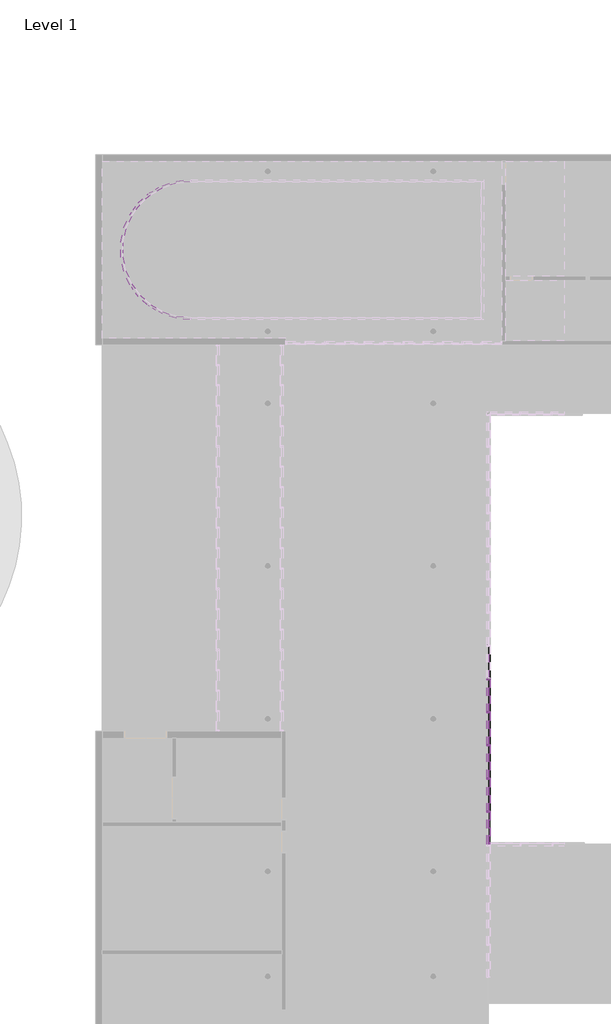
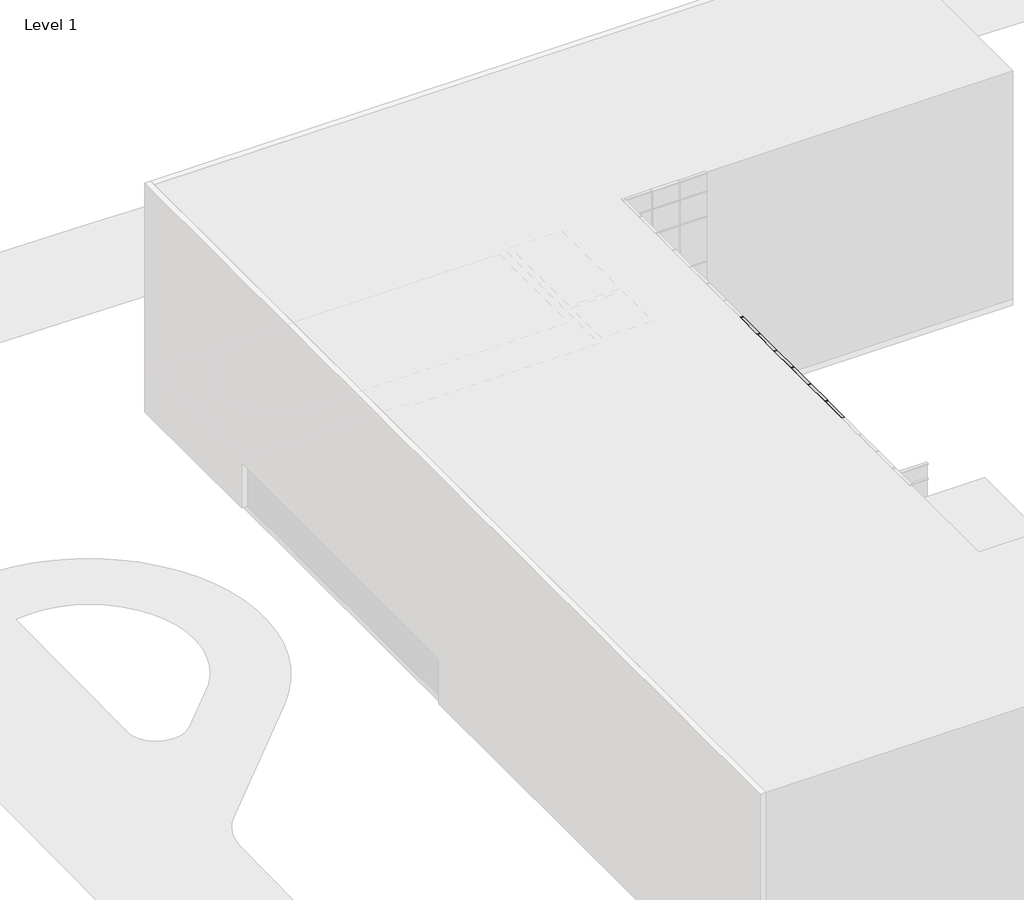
# One storey, part 12 of 18: 85 members, 41 plates, 1 wall.
"""IFC4 building model written with IfcOpenShell, lengths in millimetres."""

from ifc_helpers import new_model, si_unit, point, frame, frame_2d, origin, place, context, project, spatial, polyline, circle_curve, trimmed, segment, composite_curve, outline, extrude, transform, mapped, element, save
from components import rectangular_mullion_50mm_x_150mm_70cae3e1, rectangular_mullion_50mm_x_150mm_5226f6e8, rectangular_mullion_50mm_x_150mm_cdcddcff, rectangular_mullion_50mm_x_150mm_bbc1c4ea, rectangular_mullion_50mm_x_150mm_36202a7c, rectangular_mullion_50mm_x_150mm_84717ec5, system_panel_glazed_979b1f5c, system_panel_glazed_2f061a2c, system_panel_glazed_e0fa8d18, system_panel_glazed_d7f2fe37, system_panel_solid_7338a288, system_panel_solid_0b170172, system_panel_solid_080c1e2c, system_panel_solid_c63c66e8

model = new_model("IFC4")

# Units and contexts
model_context = context("Model", 3, world=origin())
ifc_project = project(units=[si_unit("LENGTHUNIT", "METRE", prefix="MILLI")], contexts=[model_context])

# Site, building, storey
site = spatial("IfcSite", under=ifc_project)
building = spatial("IfcBuilding", under=site)
storey = spatial("IfcBuildingStorey", under=building, Name="Level 1", Elevation=0.0)

# Members
placement = place(None, origin())
rectangular_mullion_50mm_x_150mm_shape = rectangular_mullion_50mm_x_150mm_70cae3e1(model_context)
element("IfcMember", 1, ObjectType="Rectangular Mullion : 50mm x 150mm", at=placement, inside=storey, context=model_context, shape_type="MappedRepresentation", body=[
    mapped(rectangular_mullion_50mm_x_150mm_shape, transform((7447.5010724, 1362.8673344, 12400.0), x_axis=(0.0, 0.0, 1.0), y_axis=(1.0, 0.0, 0.0), z_axis=(0.0, 1.0, 0.0))),
])
element("IfcMember", 2, ObjectType="Rectangular Mullion : 50mm x 150mm", at=placement, inside=storey, context=model_context, shape_type="MappedRepresentation", body=[
    mapped(rectangular_mullion_50mm_x_150mm_shape, transform((7447.5010724, 2865.1149904, 12400.0), x_axis=(0.0, 0.0, 1.0), y_axis=(1.0, 0.0, 0.0), z_axis=(0.0, 1.0, 0.0))),
])
element("IfcMember", 3, ObjectType="Rectangular Mullion : 50mm x 150mm", at=placement, inside=storey, context=model_context, shape_type="MappedRepresentation", body=[
    mapped(rectangular_mullion_50mm_x_150mm_shape, transform((7447.5010724, 4367.3626463, 12400.0), x_axis=(0.0, 0.0, 1.0), y_axis=(1.0, 0.0, 0.0), z_axis=(0.0, 1.0, 0.0))),
])
element("IfcMember", 4, ObjectType="Rectangular Mullion : 50mm x 150mm", at=placement, inside=storey, context=model_context, shape_type="MappedRepresentation", body=[
    mapped(rectangular_mullion_50mm_x_150mm_shape, transform((7447.5010724, 5869.6103022, 12400.0), x_axis=(0.0, 0.0, 1.0), y_axis=(1.0, 0.0, 0.0), z_axis=(0.0, 1.0, 0.0))),
])
element("IfcMember", 5, ObjectType="Rectangular Mullion : 50mm x 150mm", at=placement, inside=storey, context=model_context, shape_type="MappedRepresentation", body=[
    mapped(rectangular_mullion_50mm_x_150mm_shape, transform((7447.5010724, 7371.8579582, 12400.0), x_axis=(0.0, 0.0, 1.0), y_axis=(1.0, 0.0, 0.0), z_axis=(0.0, 1.0, 0.0))),
])
element("IfcMember", 6, ObjectType="Rectangular Mullion : 50mm x 150mm", at=placement, inside=storey, context=model_context, shape_type="MappedRepresentation", body=[
    mapped(rectangular_mullion_50mm_x_150mm_shape, transform((7447.5010724, 8874.1056141, 12400.0), x_axis=(0.0, 0.0, 1.0), y_axis=(1.0, 0.0, 0.0), z_axis=(0.0, 1.0, 0.0))),
])
element("IfcMember", 7, ObjectType="Rectangular Mullion : 50mm x 150mm", at=placement, inside=storey, context=model_context, shape_type="MappedRepresentation", body=[
    mapped(rectangular_mullion_50mm_x_150mm_shape, transform((7447.5010724, 1412.8673344, 0.0), x_axis=(0.0, 0.0, -1.0), y_axis=(1.0, 0.0, 0.0), z_axis=(0.0, -1.0, 0.0))),
])
element("IfcMember", 8, ObjectType="Rectangular Mullion : 50mm x 150mm", at=placement, inside=storey, context=model_context, shape_type="MappedRepresentation", body=[
    mapped(rectangular_mullion_50mm_x_150mm_shape, transform((7447.5010724, 2915.1149904, 0.0), x_axis=(0.0, 0.0, -1.0), y_axis=(1.0, 0.0, 0.0), z_axis=(0.0, -1.0, 0.0))),
])
element("IfcMember", 9, ObjectType="Rectangular Mullion : 50mm x 150mm", at=placement, inside=storey, context=model_context, shape_type="MappedRepresentation", body=[
    mapped(rectangular_mullion_50mm_x_150mm_shape, transform((7447.5010724, 4417.3626463, 0.0), x_axis=(0.0, 0.0, -1.0), y_axis=(1.0, 0.0, 0.0), z_axis=(0.0, -1.0, 0.0))),
])
element("IfcMember", 10, ObjectType="Rectangular Mullion : 50mm x 150mm", at=placement, inside=storey, context=model_context, shape_type="MappedRepresentation", body=[
    mapped(rectangular_mullion_50mm_x_150mm_shape, transform((7447.5010724, 5919.6103022, 0.0), x_axis=(0.0, 0.0, -1.0), y_axis=(1.0, 0.0, 0.0), z_axis=(0.0, -1.0, 0.0))),
])
element("IfcMember", 11, ObjectType="Rectangular Mullion : 50mm x 150mm", at=placement, inside=storey, context=model_context, shape_type="MappedRepresentation", body=[
    mapped(rectangular_mullion_50mm_x_150mm_shape, transform((7447.5010724, 7421.8579582, 0.0), x_axis=(0.0, 0.0, -1.0), y_axis=(1.0, 0.0, 0.0), z_axis=(0.0, -1.0, 0.0))),
])
rectangular_mullion_50mm_x_150mm_2_shape = rectangular_mullion_50mm_x_150mm_5226f6e8(model_context)
element("IfcMember", 12, ObjectType="Rectangular Mullion : 50mm x 150mm", at=placement, inside=storey, context=model_context, shape_type="MappedRepresentation", body=[
    mapped(rectangular_mullion_50mm_x_150mm_2_shape, transform((7447.5010724, 2865.1149904, 3800.0), x_axis=(0.0, 0.0, 1.0), y_axis=(1.0, 0.0, 0.0), z_axis=(0.0, 1.0, 0.0))),
])
element("IfcMember", 13, ObjectType="Rectangular Mullion : 50mm x 150mm", at=placement, inside=storey, context=model_context, shape_type="MappedRepresentation", body=[
    mapped(rectangular_mullion_50mm_x_150mm_2_shape, transform((7447.5010724, 4367.3626463, 3800.0), x_axis=(0.0, 0.0, 1.0), y_axis=(1.0, 0.0, 0.0), z_axis=(0.0, 1.0, 0.0))),
])
element("IfcMember", 14, ObjectType="Rectangular Mullion : 50mm x 150mm", at=placement, inside=storey, context=model_context, shape_type="MappedRepresentation", body=[
    mapped(rectangular_mullion_50mm_x_150mm_2_shape, transform((7447.5010724, 5869.6103022, 3800.0), x_axis=(0.0, 0.0, 1.0), y_axis=(1.0, 0.0, 0.0), z_axis=(0.0, 1.0, 0.0))),
])
element("IfcMember", 15, ObjectType="Rectangular Mullion : 50mm x 150mm", at=placement, inside=storey, context=model_context, shape_type="MappedRepresentation", body=[
    mapped(rectangular_mullion_50mm_x_150mm_2_shape, transform((7447.5010724, 7371.8579582, 3800.0), x_axis=(0.0, 0.0, 1.0), y_axis=(1.0, 0.0, 0.0), z_axis=(0.0, 1.0, 0.0))),
])
element("IfcMember", 16, ObjectType="Rectangular Mullion : 50mm x 150mm", at=placement, inside=storey, context=model_context, shape_type="MappedRepresentation", body=[
    mapped(rectangular_mullion_50mm_x_150mm_2_shape, transform((7447.5010724, 8874.1056141, 3800.0), x_axis=(0.0, 0.0, 1.0), y_axis=(1.0, 0.0, 0.0), z_axis=(0.0, 1.0, 0.0))),
])
element("IfcMember", 17, ObjectType="Rectangular Mullion : 50mm x 150mm", at=placement, inside=storey, context=model_context, shape_type="MappedRepresentation", body=[
    mapped(rectangular_mullion_50mm_x_150mm_2_shape, transform((7447.5010724, 1362.8673344, 7600.0), x_axis=(0.0, 0.0, 1.0), y_axis=(1.0, 0.0, 0.0), z_axis=(0.0, 1.0, 0.0))),
])
element("IfcMember", 18, ObjectType="Rectangular Mullion : 50mm x 150mm", at=placement, inside=storey, context=model_context, shape_type="MappedRepresentation", body=[
    mapped(rectangular_mullion_50mm_x_150mm_2_shape, transform((7447.5010724, 2865.1149904, 7600.0), x_axis=(0.0, 0.0, 1.0), y_axis=(1.0, 0.0, 0.0), z_axis=(0.0, 1.0, 0.0))),
])
element("IfcMember", 19, ObjectType="Rectangular Mullion : 50mm x 150mm", at=placement, inside=storey, context=model_context, shape_type="MappedRepresentation", body=[
    mapped(rectangular_mullion_50mm_x_150mm_2_shape, transform((7447.5010724, 4367.3626463, 7600.0), x_axis=(0.0, 0.0, 1.0), y_axis=(1.0, 0.0, 0.0), z_axis=(0.0, 1.0, 0.0))),
])
element("IfcMember", 20, ObjectType="Rectangular Mullion : 50mm x 150mm", at=placement, inside=storey, context=model_context, shape_type="MappedRepresentation", body=[
    mapped(rectangular_mullion_50mm_x_150mm_2_shape, transform((7447.5010724, 5869.6103022, 7600.0), x_axis=(0.0, 0.0, 1.0), y_axis=(1.0, 0.0, 0.0), z_axis=(0.0, 1.0, 0.0))),
])
element("IfcMember", 21, ObjectType="Rectangular Mullion : 50mm x 150mm", at=placement, inside=storey, context=model_context, shape_type="MappedRepresentation", body=[
    mapped(rectangular_mullion_50mm_x_150mm_2_shape, transform((7447.5010724, 7371.8579582, 7600.0), x_axis=(0.0, 0.0, 1.0), y_axis=(1.0, 0.0, 0.0), z_axis=(0.0, 1.0, 0.0))),
])
element("IfcMember", 22, ObjectType="Rectangular Mullion : 50mm x 150mm", at=placement, inside=storey, context=model_context, shape_type="MappedRepresentation", body=[
    mapped(rectangular_mullion_50mm_x_150mm_2_shape, transform((7447.5010724, 8874.1056141, 7600.0), x_axis=(0.0, 0.0, 1.0), y_axis=(1.0, 0.0, 0.0), z_axis=(0.0, 1.0, 0.0))),
])
element("IfcMember", 23, ObjectType="Rectangular Mullion : 50mm x 150mm", at=placement, inside=storey, context=model_context, shape_type="MappedRepresentation", body=[
    mapped(rectangular_mullion_50mm_x_150mm_2_shape, transform((7447.5010724, 1362.8673344, 11400.0), x_axis=(0.0, 0.0, 1.0), y_axis=(1.0, 0.0, 0.0), z_axis=(0.0, 1.0, 0.0))),
])
element("IfcMember", 24, ObjectType="Rectangular Mullion : 50mm x 150mm", at=placement, inside=storey, context=model_context, shape_type="MappedRepresentation", body=[
    mapped(rectangular_mullion_50mm_x_150mm_2_shape, transform((7447.5010724, 2865.1149904, 11400.0), x_axis=(0.0, 0.0, 1.0), y_axis=(1.0, 0.0, 0.0), z_axis=(0.0, 1.0, 0.0))),
])
element("IfcMember", 25, ObjectType="Rectangular Mullion : 50mm x 150mm", at=placement, inside=storey, context=model_context, shape_type="MappedRepresentation", body=[
    mapped(rectangular_mullion_50mm_x_150mm_2_shape, transform((7447.5010724, 4367.3626463, 11400.0), x_axis=(0.0, 0.0, 1.0), y_axis=(1.0, 0.0, 0.0), z_axis=(0.0, 1.0, 0.0))),
])
element("IfcMember", 26, ObjectType="Rectangular Mullion : 50mm x 150mm", at=placement, inside=storey, context=model_context, shape_type="MappedRepresentation", body=[
    mapped(rectangular_mullion_50mm_x_150mm_2_shape, transform((7447.5010724, 5869.6103022, 11400.0), x_axis=(0.0, 0.0, 1.0), y_axis=(1.0, 0.0, 0.0), z_axis=(0.0, 1.0, 0.0))),
])
element("IfcMember", 27, ObjectType="Rectangular Mullion : 50mm x 150mm", at=placement, inside=storey, context=model_context, shape_type="MappedRepresentation", body=[
    mapped(rectangular_mullion_50mm_x_150mm_2_shape, transform((7447.5010724, 7371.8579582, 11400.0), x_axis=(0.0, 0.0, 1.0), y_axis=(1.0, 0.0, 0.0), z_axis=(0.0, 1.0, 0.0))),
])
element("IfcMember", 28, ObjectType="Rectangular Mullion : 50mm x 150mm", at=placement, inside=storey, context=model_context, shape_type="MappedRepresentation", body=[
    mapped(rectangular_mullion_50mm_x_150mm_2_shape, transform((7447.5010724, 8874.1056141, 11400.0), x_axis=(0.0, 0.0, 1.0), y_axis=(1.0, 0.0, 0.0), z_axis=(0.0, 1.0, 0.0))),
])
element("IfcMember", 29, ObjectType="Rectangular Mullion : 50mm x 150mm", at=placement, inside=storey, context=model_context, shape_type="MappedRepresentation", body=[
    mapped(rectangular_mullion_50mm_x_150mm_2_shape, transform((7447.5010724, 1362.8673344, 10040.0), x_axis=(0.0, 0.0, 1.0), y_axis=(1.0, 0.0, 0.0), z_axis=(0.0, 1.0, 0.0))),
])
element("IfcMember", 30, ObjectType="Rectangular Mullion : 50mm x 150mm", at=placement, inside=storey, context=model_context, shape_type="MappedRepresentation", body=[
    mapped(rectangular_mullion_50mm_x_150mm_2_shape, transform((7447.5010724, 2865.1149904, 10040.0), x_axis=(0.0, 0.0, 1.0), y_axis=(1.0, 0.0, 0.0), z_axis=(0.0, 1.0, 0.0))),
])
element("IfcMember", 31, ObjectType="Rectangular Mullion : 50mm x 150mm", at=placement, inside=storey, context=model_context, shape_type="MappedRepresentation", body=[
    mapped(rectangular_mullion_50mm_x_150mm_2_shape, transform((7447.5010724, 4367.3626463, 10040.0), x_axis=(0.0, 0.0, 1.0), y_axis=(1.0, 0.0, 0.0), z_axis=(0.0, 1.0, 0.0))),
])
element("IfcMember", 32, ObjectType="Rectangular Mullion : 50mm x 150mm", at=placement, inside=storey, context=model_context, shape_type="MappedRepresentation", body=[
    mapped(rectangular_mullion_50mm_x_150mm_2_shape, transform((7447.5010724, 5869.6103022, 10040.0), x_axis=(0.0, 0.0, 1.0), y_axis=(1.0, 0.0, 0.0), z_axis=(0.0, 1.0, 0.0))),
])
element("IfcMember", 33, ObjectType="Rectangular Mullion : 50mm x 150mm", at=placement, inside=storey, context=model_context, shape_type="MappedRepresentation", body=[
    mapped(rectangular_mullion_50mm_x_150mm_2_shape, transform((7447.5010724, 7371.8579582, 10040.0), x_axis=(0.0, 0.0, 1.0), y_axis=(1.0, 0.0, 0.0), z_axis=(0.0, 1.0, 0.0))),
])
element("IfcMember", 34, ObjectType="Rectangular Mullion : 50mm x 150mm", at=placement, inside=storey, context=model_context, shape_type="MappedRepresentation", body=[
    mapped(rectangular_mullion_50mm_x_150mm_2_shape, transform((7447.5010724, 8874.1056141, 10040.0), x_axis=(0.0, 0.0, 1.0), y_axis=(1.0, 0.0, 0.0), z_axis=(0.0, 1.0, 0.0))),
])
element("IfcMember", 35, ObjectType="Rectangular Mullion : 50mm x 150mm", at=placement, inside=storey, context=model_context, shape_type="MappedRepresentation", body=[
    mapped(rectangular_mullion_50mm_x_150mm_2_shape, transform((7447.5010724, 2865.1149904, 6240.0), x_axis=(0.0, 0.0, 1.0), y_axis=(1.0, 0.0, 0.0), z_axis=(0.0, 1.0, 0.0))),
])
element("IfcMember", 36, ObjectType="Rectangular Mullion : 50mm x 150mm", at=placement, inside=storey, context=model_context, shape_type="MappedRepresentation", body=[
    mapped(rectangular_mullion_50mm_x_150mm_2_shape, transform((7447.5010724, 4367.3626463, 6240.0), x_axis=(0.0, 0.0, 1.0), y_axis=(1.0, 0.0, 0.0), z_axis=(0.0, 1.0, 0.0))),
])
element("IfcMember", 37, ObjectType="Rectangular Mullion : 50mm x 150mm", at=placement, inside=storey, context=model_context, shape_type="MappedRepresentation", body=[
    mapped(rectangular_mullion_50mm_x_150mm_2_shape, transform((7447.5010724, 5869.6103022, 6240.0), x_axis=(0.0, 0.0, 1.0), y_axis=(1.0, 0.0, 0.0), z_axis=(0.0, 1.0, 0.0))),
])
element("IfcMember", 38, ObjectType="Rectangular Mullion : 50mm x 150mm", at=placement, inside=storey, context=model_context, shape_type="MappedRepresentation", body=[
    mapped(rectangular_mullion_50mm_x_150mm_2_shape, transform((7447.5010724, 7371.8579582, 6240.0), x_axis=(0.0, 0.0, 1.0), y_axis=(1.0, 0.0, 0.0), z_axis=(0.0, 1.0, 0.0))),
])
element("IfcMember", 39, ObjectType="Rectangular Mullion : 50mm x 150mm", at=placement, inside=storey, context=model_context, shape_type="MappedRepresentation", body=[
    mapped(rectangular_mullion_50mm_x_150mm_2_shape, transform((7447.5010724, 2865.1149904, 2440.0), x_axis=(0.0, 0.0, 1.0), y_axis=(1.0, 0.0, 0.0), z_axis=(0.0, 1.0, 0.0))),
])
element("IfcMember", 40, ObjectType="Rectangular Mullion : 50mm x 150mm", at=placement, inside=storey, context=model_context, shape_type="MappedRepresentation", body=[
    mapped(rectangular_mullion_50mm_x_150mm_2_shape, transform((7447.5010724, 4367.3626463, 2440.0), x_axis=(0.0, 0.0, 1.0), y_axis=(1.0, 0.0, 0.0), z_axis=(0.0, 1.0, 0.0))),
])
element("IfcMember", 41, ObjectType="Rectangular Mullion : 50mm x 150mm", at=placement, inside=storey, context=model_context, shape_type="MappedRepresentation", body=[
    mapped(rectangular_mullion_50mm_x_150mm_2_shape, transform((7447.5010724, 5869.6103022, 2440.0), x_axis=(0.0, 0.0, 1.0), y_axis=(1.0, 0.0, 0.0), z_axis=(0.0, 1.0, 0.0))),
])
element("IfcMember", 42, ObjectType="Rectangular Mullion : 50mm x 150mm", at=placement, inside=storey, context=model_context, shape_type="MappedRepresentation", body=[
    mapped(rectangular_mullion_50mm_x_150mm_2_shape, transform((7447.5010724, 7371.8579582, 2440.0), x_axis=(0.0, 0.0, 1.0), y_axis=(1.0, 0.0, 0.0), z_axis=(0.0, 1.0, 0.0))),
])
rectangular_mullion_50mm_x_150mm_3_shape = rectangular_mullion_50mm_x_150mm_cdcddcff(model_context)
element("IfcMember", 43, ObjectType="Rectangular Mullion : 50mm x 150mm", at=placement, inside=storey, context=model_context, shape_type="MappedRepresentation", body=[
    mapped(rectangular_mullion_50mm_x_150mm_3_shape, transform((7447.5010724, 1362.8673344, 3800.0), x_axis=(0.0, 0.0, 1.0), y_axis=(1.0, 0.0, 0.0), z_axis=(0.0, 1.0, 0.0))),
])
element("IfcMember", 44, ObjectType="Rectangular Mullion : 50mm x 150mm", at=placement, inside=storey, context=model_context, shape_type="MappedRepresentation", body=[
    mapped(rectangular_mullion_50mm_x_150mm_3_shape, transform((7447.5010724, 1362.8673344, 6240.0), x_axis=(0.0, 0.0, 1.0), y_axis=(1.0, 0.0, 0.0), z_axis=(0.0, 1.0, 0.0))),
])
element("IfcMember", 45, ObjectType="Rectangular Mullion : 50mm x 150mm", at=placement, inside=storey, context=model_context, shape_type="MappedRepresentation", body=[
    mapped(rectangular_mullion_50mm_x_150mm_3_shape, transform((7447.5010724, 1362.8673344, 2440.0), x_axis=(0.0, 0.0, 1.0), y_axis=(1.0, 0.0, 0.0), z_axis=(0.0, 1.0, 0.0))),
])
rectangular_mullion_50mm_x_150mm_4_shape = rectangular_mullion_50mm_x_150mm_bbc1c4ea(model_context)
element("IfcMember", 46, ObjectType="Rectangular Mullion : 50mm x 150mm", at=placement, inside=storey, context=model_context, shape_type="MappedRepresentation", body=[
    mapped(rectangular_mullion_50mm_x_150mm_4_shape, transform((7447.5010724, 1387.8673344, 11400.0), x_axis=(0.0, 1.0, 0.0), y_axis=(1.0, 0.0, 0.0), z_axis=(0.0, 0.0, -1.0))),
])
element("IfcMember", 47, ObjectType="Rectangular Mullion : 50mm x 150mm", at=placement, inside=storey, context=model_context, shape_type="MappedRepresentation", body=[
    mapped(rectangular_mullion_50mm_x_150mm_4_shape, transform((7447.5010724, 2890.1149904, 11400.0), x_axis=(0.0, 1.0, 0.0), y_axis=(1.0, 0.0, 0.0), z_axis=(0.0, 0.0, -1.0))),
])
element("IfcMember", 48, ObjectType="Rectangular Mullion : 50mm x 150mm", at=placement, inside=storey, context=model_context, shape_type="MappedRepresentation", body=[
    mapped(rectangular_mullion_50mm_x_150mm_4_shape, transform((7447.5010724, 4392.3626463, 11400.0), x_axis=(0.0, 1.0, 0.0), y_axis=(1.0, 0.0, 0.0), z_axis=(0.0, 0.0, -1.0))),
])
element("IfcMember", 49, ObjectType="Rectangular Mullion : 50mm x 150mm", at=placement, inside=storey, context=model_context, shape_type="MappedRepresentation", body=[
    mapped(rectangular_mullion_50mm_x_150mm_4_shape, transform((7447.5010724, 5894.6103022, 11400.0), x_axis=(0.0, 1.0, 0.0), y_axis=(1.0, 0.0, 0.0), z_axis=(0.0, 0.0, -1.0))),
])
element("IfcMember", 50, ObjectType="Rectangular Mullion : 50mm x 150mm", at=placement, inside=storey, context=model_context, shape_type="MappedRepresentation", body=[
    mapped(rectangular_mullion_50mm_x_150mm_4_shape, transform((7447.5010724, 7396.8579582, 11400.0), x_axis=(0.0, 1.0, 0.0), y_axis=(1.0, 0.0, 0.0), z_axis=(0.0, 0.0, -1.0))),
])
element("IfcMember", 51, ObjectType="Rectangular Mullion : 50mm x 150mm", at=placement, inside=storey, context=model_context, shape_type="MappedRepresentation", body=[
    mapped(rectangular_mullion_50mm_x_150mm_4_shape, transform((7447.5010724, 8899.1056141, 11400.0), x_axis=(0.0, 1.0, 0.0), y_axis=(1.0, 0.0, 0.0), z_axis=(0.0, 0.0, -1.0))),
])
rectangular_mullion_50mm_x_150mm_5_shape = rectangular_mullion_50mm_x_150mm_36202a7c(model_context)
element("IfcMember", 52, ObjectType="Rectangular Mullion : 50mm x 150mm", at=placement, inside=storey, context=model_context, shape_type="MappedRepresentation", body=[
    mapped(rectangular_mullion_50mm_x_150mm_5_shape, transform((7447.5010724, 1387.8673344, 0.0), x_axis=(0.0, 1.0, 0.0), y_axis=(1.0, 0.0, 0.0), z_axis=(0.0, 0.0, -1.0))),
])
element("IfcMember", 53, ObjectType="Rectangular Mullion : 50mm x 150mm", at=placement, inside=storey, context=model_context, shape_type="MappedRepresentation", body=[
    mapped(rectangular_mullion_50mm_x_150mm_5_shape, transform((7447.5010724, 2890.1149904, 0.0), x_axis=(0.0, 1.0, 0.0), y_axis=(1.0, 0.0, 0.0), z_axis=(0.0, 0.0, -1.0))),
])
element("IfcMember", 54, ObjectType="Rectangular Mullion : 50mm x 150mm", at=placement, inside=storey, context=model_context, shape_type="MappedRepresentation", body=[
    mapped(rectangular_mullion_50mm_x_150mm_5_shape, transform((7447.5010724, 4392.3626463, 0.0), x_axis=(0.0, 1.0, 0.0), y_axis=(1.0, 0.0, 0.0), z_axis=(0.0, 0.0, -1.0))),
])
element("IfcMember", 55, ObjectType="Rectangular Mullion : 50mm x 150mm", at=placement, inside=storey, context=model_context, shape_type="MappedRepresentation", body=[
    mapped(rectangular_mullion_50mm_x_150mm_5_shape, transform((7447.5010724, 5894.6103022, 0.0), x_axis=(0.0, 1.0, 0.0), y_axis=(1.0, 0.0, 0.0), z_axis=(0.0, 0.0, -1.0))),
])
element("IfcMember", 56, ObjectType="Rectangular Mullion : 50mm x 150mm", at=placement, inside=storey, context=model_context, shape_type="MappedRepresentation", body=[
    mapped(rectangular_mullion_50mm_x_150mm_5_shape, transform((7447.5010724, 7396.8579582, 0.0), x_axis=(0.0, 1.0, 0.0), y_axis=(1.0, 0.0, 0.0), z_axis=(0.0, 0.0, -1.0))),
])
element("IfcMember", 57, ObjectType="Rectangular Mullion : 50mm x 150mm", at=placement, inside=storey, context=model_context, shape_type="MappedRepresentation", body=[
    mapped(rectangular_mullion_50mm_x_150mm_5_shape, transform((7447.5010724, 8899.1056141, 0.0), x_axis=(0.0, 1.0, 0.0), y_axis=(1.0, 0.0, 0.0), z_axis=(0.0, 0.0, -1.0))),
])
rectangular_mullion_50mm_x_150mm_6_shape = rectangular_mullion_50mm_x_150mm_84717ec5(model_context)
element("IfcMember", 58, ObjectType="Rectangular Mullion : 50mm x 150mm", at=placement, inside=storey, context=model_context, shape_type="MappedRepresentation", body=[
    mapped(rectangular_mullion_50mm_x_150mm_6_shape, transform((7447.5010724, 1387.8673344, 10040.0), x_axis=(0.0, 1.0, 0.0), y_axis=(1.0, 0.0, 0.0), z_axis=(0.0, 0.0, -1.0))),
])
element("IfcMember", 59, ObjectType="Rectangular Mullion : 50mm x 150mm", at=placement, inside=storey, context=model_context, shape_type="MappedRepresentation", body=[
    mapped(rectangular_mullion_50mm_x_150mm_6_shape, transform((7447.5010724, 2890.1149904, 10040.0), x_axis=(0.0, 1.0, 0.0), y_axis=(1.0, 0.0, 0.0), z_axis=(0.0, 0.0, -1.0))),
])
element("IfcMember", 60, ObjectType="Rectangular Mullion : 50mm x 150mm", at=placement, inside=storey, context=model_context, shape_type="MappedRepresentation", body=[
    mapped(rectangular_mullion_50mm_x_150mm_6_shape, transform((7447.5010724, 4392.3626463, 10040.0), x_axis=(0.0, 1.0, 0.0), y_axis=(1.0, 0.0, 0.0), z_axis=(0.0, 0.0, -1.0))),
])
element("IfcMember", 61, ObjectType="Rectangular Mullion : 50mm x 150mm", at=placement, inside=storey, context=model_context, shape_type="MappedRepresentation", body=[
    mapped(rectangular_mullion_50mm_x_150mm_6_shape, transform((7447.5010724, 5894.6103022, 10040.0), x_axis=(0.0, 1.0, 0.0), y_axis=(1.0, 0.0, 0.0), z_axis=(0.0, 0.0, -1.0))),
])
element("IfcMember", 62, ObjectType="Rectangular Mullion : 50mm x 150mm", at=placement, inside=storey, context=model_context, shape_type="MappedRepresentation", body=[
    mapped(rectangular_mullion_50mm_x_150mm_6_shape, transform((7447.5010724, 7396.8579582, 10040.0), x_axis=(0.0, 1.0, 0.0), y_axis=(1.0, 0.0, 0.0), z_axis=(0.0, 0.0, -1.0))),
])
element("IfcMember", 63, ObjectType="Rectangular Mullion : 50mm x 150mm", at=placement, inside=storey, context=model_context, shape_type="MappedRepresentation", body=[
    mapped(rectangular_mullion_50mm_x_150mm_6_shape, transform((7447.5010724, 8899.1056141, 10040.0), x_axis=(0.0, 1.0, 0.0), y_axis=(1.0, 0.0, 0.0), z_axis=(0.0, 0.0, -1.0))),
])
element("IfcMember", 64, ObjectType="Rectangular Mullion : 50mm x 150mm", at=placement, inside=storey, context=model_context, shape_type="MappedRepresentation", body=[
    mapped(rectangular_mullion_50mm_x_150mm_6_shape, transform((7447.5010724, 1387.8673344, 6240.0), x_axis=(0.0, 1.0, 0.0), y_axis=(1.0, 0.0, 0.0), z_axis=(0.0, 0.0, -1.0))),
])
element("IfcMember", 65, ObjectType="Rectangular Mullion : 50mm x 150mm", at=placement, inside=storey, context=model_context, shape_type="MappedRepresentation", body=[
    mapped(rectangular_mullion_50mm_x_150mm_6_shape, transform((7447.5010724, 2890.1149904, 6240.0), x_axis=(0.0, 1.0, 0.0), y_axis=(1.0, 0.0, 0.0), z_axis=(0.0, 0.0, -1.0))),
])
element("IfcMember", 66, ObjectType="Rectangular Mullion : 50mm x 150mm", at=placement, inside=storey, context=model_context, shape_type="MappedRepresentation", body=[
    mapped(rectangular_mullion_50mm_x_150mm_6_shape, transform((7447.5010724, 4392.3626463, 6240.0), x_axis=(0.0, 1.0, 0.0), y_axis=(1.0, 0.0, 0.0), z_axis=(0.0, 0.0, -1.0))),
])
element("IfcMember", 67, ObjectType="Rectangular Mullion : 50mm x 150mm", at=placement, inside=storey, context=model_context, shape_type="MappedRepresentation", body=[
    mapped(rectangular_mullion_50mm_x_150mm_6_shape, transform((7447.5010724, 5894.6103022, 6240.0), x_axis=(0.0, 1.0, 0.0), y_axis=(1.0, 0.0, 0.0), z_axis=(0.0, 0.0, -1.0))),
])
element("IfcMember", 68, ObjectType="Rectangular Mullion : 50mm x 150mm", at=placement, inside=storey, context=model_context, shape_type="MappedRepresentation", body=[
    mapped(rectangular_mullion_50mm_x_150mm_6_shape, transform((7447.5010724, 7396.8579582, 6240.0), x_axis=(0.0, 1.0, 0.0), y_axis=(1.0, 0.0, 0.0), z_axis=(0.0, 0.0, -1.0))),
])
element("IfcMember", 69, ObjectType="Rectangular Mullion : 50mm x 150mm", at=placement, inside=storey, context=model_context, shape_type="MappedRepresentation", body=[
    mapped(rectangular_mullion_50mm_x_150mm_6_shape, transform((7447.5010724, 1387.8673344, 2440.0), x_axis=(0.0, 1.0, 0.0), y_axis=(1.0, 0.0, 0.0), z_axis=(0.0, 0.0, -1.0))),
])
element("IfcMember", 70, ObjectType="Rectangular Mullion : 50mm x 150mm", at=placement, inside=storey, context=model_context, shape_type="MappedRepresentation", body=[
    mapped(rectangular_mullion_50mm_x_150mm_6_shape, transform((7447.5010724, 2890.1149904, 2440.0), x_axis=(0.0, 1.0, 0.0), y_axis=(1.0, 0.0, 0.0), z_axis=(0.0, 0.0, -1.0))),
])
element("IfcMember", 71, ObjectType="Rectangular Mullion : 50mm x 150mm", at=placement, inside=storey, context=model_context, shape_type="MappedRepresentation", body=[
    mapped(rectangular_mullion_50mm_x_150mm_6_shape, transform((7447.5010724, 4392.3626463, 2440.0), x_axis=(0.0, 1.0, 0.0), y_axis=(1.0, 0.0, 0.0), z_axis=(0.0, 0.0, -1.0))),
])
element("IfcMember", 72, ObjectType="Rectangular Mullion : 50mm x 150mm", at=placement, inside=storey, context=model_context, shape_type="MappedRepresentation", body=[
    mapped(rectangular_mullion_50mm_x_150mm_6_shape, transform((7447.5010724, 5894.6103022, 2440.0), x_axis=(0.0, 1.0, 0.0), y_axis=(1.0, 0.0, 0.0), z_axis=(0.0, 0.0, -1.0))),
])
element("IfcMember", 73, ObjectType="Rectangular Mullion : 50mm x 150mm", at=placement, inside=storey, context=model_context, shape_type="MappedRepresentation", body=[
    mapped(rectangular_mullion_50mm_x_150mm_6_shape, transform((7447.5010724, 7396.8579582, 2440.0), x_axis=(0.0, 1.0, 0.0), y_axis=(1.0, 0.0, 0.0), z_axis=(0.0, 0.0, -1.0))),
])
element("IfcMember", 74, ObjectType="Rectangular Mullion : 50mm x 150mm", at=placement, inside=storey, context=model_context, shape_type="MappedRepresentation", body=[
    mapped(rectangular_mullion_50mm_x_150mm_5_shape, transform((7447.5010724, 1387.8673344, 3800.0), x_axis=(0.0, 1.0, 0.0), y_axis=(1.0, 0.0, 0.0), z_axis=(0.0, 0.0, -1.0))),
])
element("IfcMember", 75, ObjectType="Rectangular Mullion : 50mm x 150mm", at=placement, inside=storey, context=model_context, shape_type="MappedRepresentation", body=[
    mapped(rectangular_mullion_50mm_x_150mm_5_shape, transform((7447.5010724, 2890.1149904, 3800.0), x_axis=(0.0, 1.0, 0.0), y_axis=(1.0, 0.0, 0.0), z_axis=(0.0, 0.0, -1.0))),
])
element("IfcMember", 76, ObjectType="Rectangular Mullion : 50mm x 150mm", at=placement, inside=storey, context=model_context, shape_type="MappedRepresentation", body=[
    mapped(rectangular_mullion_50mm_x_150mm_5_shape, transform((7447.5010724, 4392.3626463, 3800.0), x_axis=(0.0, 1.0, 0.0), y_axis=(1.0, 0.0, 0.0), z_axis=(0.0, 0.0, -1.0))),
])
element("IfcMember", 77, ObjectType="Rectangular Mullion : 50mm x 150mm", at=placement, inside=storey, context=model_context, shape_type="MappedRepresentation", body=[
    mapped(rectangular_mullion_50mm_x_150mm_5_shape, transform((7447.5010724, 5894.6103022, 3800.0), x_axis=(0.0, 1.0, 0.0), y_axis=(1.0, 0.0, 0.0), z_axis=(0.0, 0.0, -1.0))),
])
element("IfcMember", 78, ObjectType="Rectangular Mullion : 50mm x 150mm", at=placement, inside=storey, context=model_context, shape_type="MappedRepresentation", body=[
    mapped(rectangular_mullion_50mm_x_150mm_5_shape, transform((7447.5010724, 7396.8579582, 3800.0), x_axis=(0.0, 1.0, 0.0), y_axis=(1.0, 0.0, 0.0), z_axis=(0.0, 0.0, -1.0))),
])
element("IfcMember", 79, ObjectType="Rectangular Mullion : 50mm x 150mm", at=placement, inside=storey, context=model_context, shape_type="MappedRepresentation", body=[
    mapped(rectangular_mullion_50mm_x_150mm_5_shape, transform((7447.5010724, 8899.1056141, 3800.0), x_axis=(0.0, 1.0, 0.0), y_axis=(1.0, 0.0, 0.0), z_axis=(0.0, 0.0, -1.0))),
])
element("IfcMember", 80, ObjectType="Rectangular Mullion : 50mm x 150mm", at=placement, inside=storey, context=model_context, shape_type="MappedRepresentation", body=[
    mapped(rectangular_mullion_50mm_x_150mm_5_shape, transform((7447.5010724, 1387.8673344, 7600.0), x_axis=(0.0, 1.0, 0.0), y_axis=(1.0, 0.0, 0.0), z_axis=(0.0, 0.0, -1.0))),
])
element("IfcMember", 81, ObjectType="Rectangular Mullion : 50mm x 150mm", at=placement, inside=storey, context=model_context, shape_type="MappedRepresentation", body=[
    mapped(rectangular_mullion_50mm_x_150mm_5_shape, transform((7447.5010724, 2890.1149904, 7600.0), x_axis=(0.0, 1.0, 0.0), y_axis=(1.0, 0.0, 0.0), z_axis=(0.0, 0.0, -1.0))),
])
element("IfcMember", 82, ObjectType="Rectangular Mullion : 50mm x 150mm", at=placement, inside=storey, context=model_context, shape_type="MappedRepresentation", body=[
    mapped(rectangular_mullion_50mm_x_150mm_5_shape, transform((7447.5010724, 4392.3626463, 7600.0), x_axis=(0.0, 1.0, 0.0), y_axis=(1.0, 0.0, 0.0), z_axis=(0.0, 0.0, -1.0))),
])
element("IfcMember", 83, ObjectType="Rectangular Mullion : 50mm x 150mm", at=placement, inside=storey, context=model_context, shape_type="MappedRepresentation", body=[
    mapped(rectangular_mullion_50mm_x_150mm_5_shape, transform((7447.5010724, 5894.6103022, 7600.0), x_axis=(0.0, 1.0, 0.0), y_axis=(1.0, 0.0, 0.0), z_axis=(0.0, 0.0, -1.0))),
])
element("IfcMember", 84, ObjectType="Rectangular Mullion : 50mm x 150mm", at=placement, inside=storey, context=model_context, shape_type="MappedRepresentation", body=[
    mapped(rectangular_mullion_50mm_x_150mm_5_shape, transform((7447.5010724, 7396.8579582, 7600.0), x_axis=(0.0, 1.0, 0.0), y_axis=(1.0, 0.0, 0.0), z_axis=(0.0, 0.0, -1.0))),
])
element("IfcMember", 85, ObjectType="Rectangular Mullion : 50mm x 150mm", at=placement, inside=storey, context=model_context, shape_type="MappedRepresentation", body=[
    mapped(rectangular_mullion_50mm_x_150mm_5_shape, transform((7447.5010724, 8899.1056141, 7600.0), x_axis=(0.0, 1.0, 0.0), y_axis=(1.0, 0.0, 0.0), z_axis=(0.0, 0.0, -1.0))),
])

# Plates
system_panel_glazed_shape = system_panel_glazed_979b1f5c(model_context)
element("IfcPlate", 86, ObjectType="System Panel : Glazed", at=placement, inside=storey, context=model_context, shape_type="MappedRepresentation", body=[
    mapped(system_panel_glazed_shape, transform((7447.5010724, 2138.9911624, 3825.0), x_axis=(0.0, 1.0, 0.0), y_axis=(-1.0, 0.0, 0.0), z_axis=(0.0, 0.0, 1.0))),
])
element("IfcPlate", 87, ObjectType="System Panel : Glazed", at=placement, inside=storey, context=model_context, shape_type="MappedRepresentation", body=[
    mapped(system_panel_glazed_shape, transform((7447.5010724, 3641.2388183, 3825.0), x_axis=(0.0, 1.0, 0.0), y_axis=(-1.0, 0.0, 0.0), z_axis=(0.0, 0.0, 1.0))),
])
element("IfcPlate", 88, ObjectType="System Panel : Glazed", at=placement, inside=storey, context=model_context, shape_type="MappedRepresentation", body=[
    mapped(system_panel_glazed_shape, transform((7447.5010724, 5143.4864743, 3825.0), x_axis=(0.0, 1.0, 0.0), y_axis=(-1.0, 0.0, 0.0), z_axis=(0.0, 0.0, 1.0))),
])
element("IfcPlate", 89, ObjectType="System Panel : Glazed", at=placement, inside=storey, context=model_context, shape_type="MappedRepresentation", body=[
    mapped(system_panel_glazed_shape, transform((7447.5010724, 6645.7341302, 3825.0), x_axis=(0.0, 1.0, 0.0), y_axis=(-1.0, 0.0, 0.0), z_axis=(0.0, 0.0, 1.0))),
])
element("IfcPlate", 90, ObjectType="System Panel : Glazed", at=placement, inside=storey, context=model_context, shape_type="MappedRepresentation", body=[
    mapped(system_panel_glazed_shape, transform((7447.5010724, 8147.9817861, 3825.0), x_axis=(0.0, 1.0, 0.0), y_axis=(-1.0, 0.0, 0.0), z_axis=(0.0, 0.0, 1.0))),
])
element("IfcPlate", 91, ObjectType="System Panel : Glazed", at=placement, inside=storey, context=model_context, shape_type="MappedRepresentation", body=[
    mapped(system_panel_glazed_shape, transform((7447.5010724, 636.7435065, 7625.0), x_axis=(0.0, 1.0, 0.0), y_axis=(-1.0, 0.0, 0.0), z_axis=(0.0, 0.0, 1.0))),
])
element("IfcPlate", 92, ObjectType="System Panel : Glazed", at=placement, inside=storey, context=model_context, shape_type="MappedRepresentation", body=[
    mapped(system_panel_glazed_shape, transform((7447.5010724, 2138.9911624, 7625.0), x_axis=(0.0, 1.0, 0.0), y_axis=(-1.0, 0.0, 0.0), z_axis=(0.0, 0.0, 1.0))),
])
element("IfcPlate", 93, ObjectType="System Panel : Glazed", at=placement, inside=storey, context=model_context, shape_type="MappedRepresentation", body=[
    mapped(system_panel_glazed_shape, transform((7447.5010724, 3641.2388183, 7625.0), x_axis=(0.0, 1.0, 0.0), y_axis=(-1.0, 0.0, 0.0), z_axis=(0.0, 0.0, 1.0))),
])
element("IfcPlate", 94, ObjectType="System Panel : Glazed", at=placement, inside=storey, context=model_context, shape_type="MappedRepresentation", body=[
    mapped(system_panel_glazed_shape, transform((7447.5010724, 5143.4864743, 7625.0), x_axis=(0.0, 1.0, 0.0), y_axis=(-1.0, 0.0, 0.0), z_axis=(0.0, 0.0, 1.0))),
])
element("IfcPlate", 95, ObjectType="System Panel : Glazed", at=placement, inside=storey, context=model_context, shape_type="MappedRepresentation", body=[
    mapped(system_panel_glazed_shape, transform((7447.5010724, 6645.7341302, 7625.0), x_axis=(0.0, 1.0, 0.0), y_axis=(-1.0, 0.0, 0.0), z_axis=(0.0, 0.0, 1.0))),
])
element("IfcPlate", 96, ObjectType="System Panel : Glazed", at=placement, inside=storey, context=model_context, shape_type="MappedRepresentation", body=[
    mapped(system_panel_glazed_shape, transform((7447.5010724, 8147.9817861, 7625.0), x_axis=(0.0, 1.0, 0.0), y_axis=(-1.0, 0.0, 0.0), z_axis=(0.0, 0.0, 1.0))),
])
system_panel_glazed_2_shape = system_panel_glazed_2f061a2c(model_context)
element("IfcPlate", 97, ObjectType="System Panel : Glazed", at=placement, inside=storey, context=model_context, shape_type="MappedRepresentation", body=[
    mapped(system_panel_glazed_2_shape, transform((7447.5010724, 2138.9911624, 50.0), x_axis=(0.0, 1.0, 0.0), y_axis=(-1.0, 0.0, 0.0), z_axis=(0.0, 0.0, 1.0))),
])
element("IfcPlate", 98, ObjectType="System Panel : Glazed", at=placement, inside=storey, context=model_context, shape_type="MappedRepresentation", body=[
    mapped(system_panel_glazed_2_shape, transform((7447.5010724, 3641.2388183, 50.0), x_axis=(0.0, 1.0, 0.0), y_axis=(-1.0, 0.0, 0.0), z_axis=(0.0, 0.0, 1.0))),
])
element("IfcPlate", 99, ObjectType="System Panel : Glazed", at=placement, inside=storey, context=model_context, shape_type="MappedRepresentation", body=[
    mapped(system_panel_glazed_2_shape, transform((7447.5010724, 5143.4864743, 50.0), x_axis=(0.0, 1.0, 0.0), y_axis=(-1.0, 0.0, 0.0), z_axis=(0.0, 0.0, 1.0))),
])
element("IfcPlate", 100, ObjectType="System Panel : Glazed", at=placement, inside=storey, context=model_context, shape_type="MappedRepresentation", body=[
    mapped(system_panel_glazed_2_shape, transform((7447.5010724, 6645.7341302, 50.0), x_axis=(0.0, 1.0, 0.0), y_axis=(-1.0, 0.0, 0.0), z_axis=(0.0, 0.0, 1.0))),
])
element("IfcPlate", 101, ObjectType="System Panel : Glazed", at=placement, inside=storey, context=model_context, shape_type="MappedRepresentation", body=[
    mapped(system_panel_glazed_2_shape, transform((7447.5010724, 8147.9817861, 50.0), x_axis=(0.0, 1.0, 0.0), y_axis=(-1.0, 0.0, 0.0), z_axis=(0.0, 0.0, 1.0))),
])
system_panel_glazed_3_shape = system_panel_glazed_e0fa8d18(model_context)
element("IfcPlate", 102, ObjectType="System Panel : Glazed", at=placement, inside=storey, context=model_context, shape_type="MappedRepresentation", body=[
    mapped(system_panel_glazed_3_shape, transform((7447.5010724, 674.2032702, 50.0), x_axis=(0.0, 1.0, 0.0), y_axis=(-1.0, 0.0, 0.0), z_axis=(0.0, 0.0, 1.0))),
])
system_panel_glazed_4_shape = system_panel_glazed_d7f2fe37(model_context)
element("IfcPlate", 103, ObjectType="System Panel : Glazed", at=placement, inside=storey, context=model_context, shape_type="MappedRepresentation", body=[
    mapped(system_panel_glazed_4_shape, transform((7447.5010724, 674.2032702, 3825.0), x_axis=(0.0, 1.0, 0.0), y_axis=(-1.0, 0.0, 0.0), z_axis=(0.0, 0.0, 1.0))),
])
system_panel_solid_shape = system_panel_solid_7338a288(model_context)
element("IfcPlate", 104, ObjectType="System Panel : Solid", at=placement, inside=storey, context=model_context, shape_type="MappedRepresentation", body=[
    mapped(system_panel_solid_shape, transform((7447.5010724, 636.7435065, 11425.0), x_axis=(0.0, 1.0, 0.0), y_axis=(-1.0, 0.0, 0.0), z_axis=(0.0, 0.0, 1.0))),
])
element("IfcPlate", 105, ObjectType="System Panel : Solid", at=placement, inside=storey, context=model_context, shape_type="MappedRepresentation", body=[
    mapped(system_panel_solid_shape, transform((7447.5010724, 2138.9911624, 11425.0), x_axis=(0.0, 1.0, 0.0), y_axis=(-1.0, 0.0, 0.0), z_axis=(0.0, 0.0, 1.0))),
])
element("IfcPlate", 106, ObjectType="System Panel : Solid", at=placement, inside=storey, context=model_context, shape_type="MappedRepresentation", body=[
    mapped(system_panel_solid_shape, transform((7447.5010724, 3641.2388183, 11425.0), x_axis=(0.0, 1.0, 0.0), y_axis=(-1.0, 0.0, 0.0), z_axis=(0.0, 0.0, 1.0))),
])
element("IfcPlate", 107, ObjectType="System Panel : Solid", at=placement, inside=storey, context=model_context, shape_type="MappedRepresentation", body=[
    mapped(system_panel_solid_shape, transform((7447.5010724, 5143.4864743, 11425.0), x_axis=(0.0, 1.0, 0.0), y_axis=(-1.0, 0.0, 0.0), z_axis=(0.0, 0.0, 1.0))),
])
element("IfcPlate", 108, ObjectType="System Panel : Solid", at=placement, inside=storey, context=model_context, shape_type="MappedRepresentation", body=[
    mapped(system_panel_solid_shape, transform((7447.5010724, 6645.7341302, 11425.0), x_axis=(0.0, 1.0, 0.0), y_axis=(-1.0, 0.0, 0.0), z_axis=(0.0, 0.0, 1.0))),
])
element("IfcPlate", 109, ObjectType="System Panel : Solid", at=placement, inside=storey, context=model_context, shape_type="MappedRepresentation", body=[
    mapped(system_panel_solid_shape, transform((7447.5010724, 8147.9817861, 11425.0), x_axis=(0.0, 1.0, 0.0), y_axis=(-1.0, 0.0, 0.0), z_axis=(0.0, 0.0, 1.0))),
])
system_panel_solid_2_shape = system_panel_solid_0b170172(model_context)
element("IfcPlate", 110, ObjectType="System Panel : Solid", at=placement, inside=storey, context=model_context, shape_type="MappedRepresentation", body=[
    mapped(system_panel_solid_2_shape, transform((7447.5010724, 636.7435065, 10065.0), x_axis=(0.0, 1.0, 0.0), y_axis=(-1.0, 0.0, 0.0), z_axis=(0.0, 0.0, 1.0))),
])
element("IfcPlate", 111, ObjectType="System Panel : Solid", at=placement, inside=storey, context=model_context, shape_type="MappedRepresentation", body=[
    mapped(system_panel_solid_2_shape, transform((7447.5010724, 2138.9911624, 10065.0), x_axis=(0.0, 1.0, 0.0), y_axis=(-1.0, 0.0, 0.0), z_axis=(0.0, 0.0, 1.0))),
])
element("IfcPlate", 112, ObjectType="System Panel : Solid", at=placement, inside=storey, context=model_context, shape_type="MappedRepresentation", body=[
    mapped(system_panel_solid_2_shape, transform((7447.5010724, 3641.2388183, 10065.0), x_axis=(0.0, 1.0, 0.0), y_axis=(-1.0, 0.0, 0.0), z_axis=(0.0, 0.0, 1.0))),
])
element("IfcPlate", 113, ObjectType="System Panel : Solid", at=placement, inside=storey, context=model_context, shape_type="MappedRepresentation", body=[
    mapped(system_panel_solid_2_shape, transform((7447.5010724, 5143.4864743, 10065.0), x_axis=(0.0, 1.0, 0.0), y_axis=(-1.0, 0.0, 0.0), z_axis=(0.0, 0.0, 1.0))),
])
element("IfcPlate", 114, ObjectType="System Panel : Solid", at=placement, inside=storey, context=model_context, shape_type="MappedRepresentation", body=[
    mapped(system_panel_solid_2_shape, transform((7447.5010724, 6645.7341302, 10065.0), x_axis=(0.0, 1.0, 0.0), y_axis=(-1.0, 0.0, 0.0), z_axis=(0.0, 0.0, 1.0))),
])
element("IfcPlate", 115, ObjectType="System Panel : Solid", at=placement, inside=storey, context=model_context, shape_type="MappedRepresentation", body=[
    mapped(system_panel_solid_2_shape, transform((7447.5010724, 8147.9817861, 10065.0), x_axis=(0.0, 1.0, 0.0), y_axis=(-1.0, 0.0, 0.0), z_axis=(0.0, 0.0, 1.0))),
])
element("IfcPlate", 116, ObjectType="System Panel : Solid", at=placement, inside=storey, context=model_context, shape_type="MappedRepresentation", body=[
    mapped(system_panel_solid_2_shape, transform((7447.5010724, 2138.9911624, 6265.0), x_axis=(0.0, 1.0, 0.0), y_axis=(-1.0, 0.0, 0.0), z_axis=(0.0, 0.0, 1.0))),
])
element("IfcPlate", 117, ObjectType="System Panel : Solid", at=placement, inside=storey, context=model_context, shape_type="MappedRepresentation", body=[
    mapped(system_panel_solid_2_shape, transform((7447.5010724, 3641.2388183, 6265.0), x_axis=(0.0, 1.0, 0.0), y_axis=(-1.0, 0.0, 0.0), z_axis=(0.0, 0.0, 1.0))),
])
element("IfcPlate", 118, ObjectType="System Panel : Solid", at=placement, inside=storey, context=model_context, shape_type="MappedRepresentation", body=[
    mapped(system_panel_solid_2_shape, transform((7447.5010724, 5143.4864743, 6265.0), x_axis=(0.0, 1.0, 0.0), y_axis=(-1.0, 0.0, 0.0), z_axis=(0.0, 0.0, 1.0))),
])
element("IfcPlate", 119, ObjectType="System Panel : Solid", at=placement, inside=storey, context=model_context, shape_type="MappedRepresentation", body=[
    mapped(system_panel_solid_2_shape, transform((7447.5010724, 6645.7341302, 6265.0), x_axis=(0.0, 1.0, 0.0), y_axis=(-1.0, 0.0, 0.0), z_axis=(0.0, 0.0, 1.0))),
])
element("IfcPlate", 120, ObjectType="System Panel : Solid", at=placement, inside=storey, context=model_context, shape_type="MappedRepresentation", body=[
    mapped(system_panel_solid_2_shape, transform((7447.5010724, 8147.9817861, 6265.0), x_axis=(0.0, 1.0, 0.0), y_axis=(-1.0, 0.0, 0.0), z_axis=(0.0, 0.0, 1.0))),
])
element("IfcPlate", 121, ObjectType="System Panel : Solid", at=placement, inside=storey, context=model_context, shape_type="MappedRepresentation", body=[
    mapped(system_panel_solid_2_shape, transform((7447.5010724, 2138.9911624, 2465.0), x_axis=(0.0, 1.0, 0.0), y_axis=(-1.0, 0.0, 0.0), z_axis=(0.0, 0.0, 1.0))),
])
element("IfcPlate", 122, ObjectType="System Panel : Solid", at=placement, inside=storey, context=model_context, shape_type="MappedRepresentation", body=[
    mapped(system_panel_solid_2_shape, transform((7447.5010724, 3641.2388183, 2465.0), x_axis=(0.0, 1.0, 0.0), y_axis=(-1.0, 0.0, 0.0), z_axis=(0.0, 0.0, 1.0))),
])
element("IfcPlate", 123, ObjectType="System Panel : Solid", at=placement, inside=storey, context=model_context, shape_type="MappedRepresentation", body=[
    mapped(system_panel_solid_2_shape, transform((7447.5010724, 5143.4864743, 2465.0), x_axis=(0.0, 1.0, 0.0), y_axis=(-1.0, 0.0, 0.0), z_axis=(0.0, 0.0, 1.0))),
])
element("IfcPlate", 124, ObjectType="System Panel : Solid", at=placement, inside=storey, context=model_context, shape_type="MappedRepresentation", body=[
    mapped(system_panel_solid_2_shape, transform((7447.5010724, 6645.7341302, 2465.0), x_axis=(0.0, 1.0, 0.0), y_axis=(-1.0, 0.0, 0.0), z_axis=(0.0, 0.0, 1.0))),
])
system_panel_solid_3_shape = system_panel_solid_080c1e2c(model_context)
element("IfcPlate", 125, ObjectType="System Panel : Solid", at=placement, inside=storey, context=model_context, shape_type="MappedRepresentation", body=[
    mapped(system_panel_solid_3_shape, transform((7447.5010724, 636.7435065, 6265.0), x_axis=(0.0, 1.0, 0.0), y_axis=(-1.0, 0.0, 0.0), z_axis=(0.0, 0.0, 1.0))),
])
system_panel_solid_4_shape = system_panel_solid_c63c66e8(model_context)
element("IfcPlate", 126, ObjectType="System Panel : Solid", at=placement, inside=storey, context=model_context, shape_type="MappedRepresentation", body=[
    mapped(system_panel_solid_4_shape, transform((7447.5010724, 674.2032702, 2465.0), x_axis=(0.0, 1.0, 0.0), y_axis=(-1.0, 0.0, 0.0), z_axis=(0.0, 0.0, 1.0))),
])

# Wall
element("IfcWall", 127, ObjectType="P3 96mm", at=placement, inside=storey, context=model_context, shape_type="SweptSolid", body=[
    extrude(outline(composite_curve([segment(polyline([(-6028.8386635, 29994.5799804), (-6028.8386635, 29898.5799804)]), True, "CONTINUOUS"), segment(trimmed(circle_curve(frame_2d((-6028.8386635, 26820.5799804)), 3078.0), [point((-6028.8386635, 29898.5799804))], [point((-6028.8386635, 23742.5799804))], True, "CARTESIAN"), True, "CONTINUOUS"), segment(polyline([(-6028.8386635, 23742.5799804), (-6028.8386635, 23646.5799804)]), True, "CONTINUOUS"), segment(trimmed(circle_curve(frame_2d((-6028.8386635, 26820.5799804)), 3174.0), [point((-6028.8386635, 23646.5799804))], [point((-6028.8386635, 29994.5799804))], False, "CARTESIAN"), True, "CONTINUOUS")], self_intersect=False)), frame((0.0, 0.0, 2497.0), z_axis=(0.0, 0.0, 1.0), x_axis=(1.0, 0.0, 0.0)), (0.0, 0.0, 1.0), 1053.0),
])

save(model, "model.ifc")
